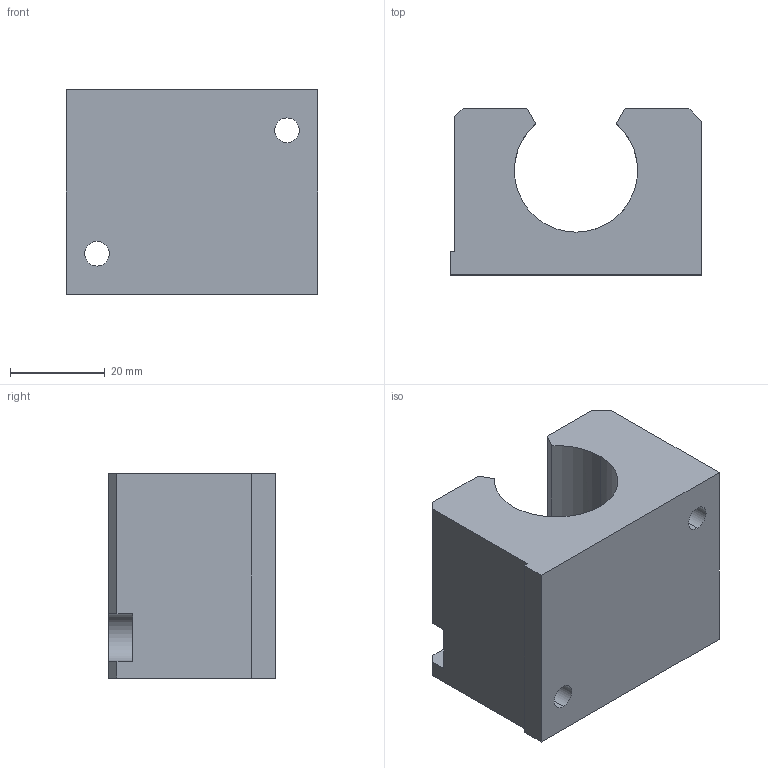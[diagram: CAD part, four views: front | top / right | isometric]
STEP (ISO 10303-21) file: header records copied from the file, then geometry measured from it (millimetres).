
FILE_DESCRIPTION (( 'STEP AP214' ), '1' );
FILE_NAME ('KGO37-16.step', '2020-03-04T13:20:43', ( '' ), ( '' ), 'SwSTEP 2.0', 'SolidWorks 2019', '' );
FILE_SCHEMA (( 'AUTOMOTIVE_DESIGN' ));
Length unit declared in the file: millimetre
Products named in the file (1): KGO37-16
Bounding box: 53 x 35 x 43 mm (x, y, z)
Volume: 51216.5 mm3; surface area: 13766.6 mm2
Topology: 1 solids, 1 shells, 41 faces, 111 edges, 72 vertices
Faces by surface type: plane 22, cylinder 17, cone 2
Entity records: 1533 total; most frequent: CARTESIAN_POINT 341, ORIENTED_EDGE 222, DIRECTION 221, EDGE_CURVE 111, VECTOR 77, LINE 77, VERTEX_POINT 72, AXIS2_PLACEMENT_3D 72
